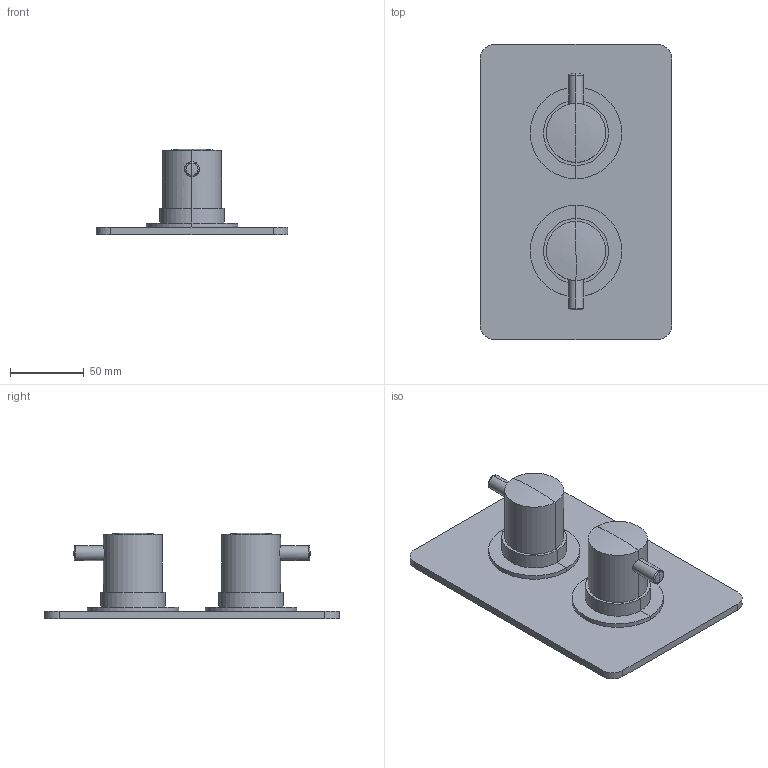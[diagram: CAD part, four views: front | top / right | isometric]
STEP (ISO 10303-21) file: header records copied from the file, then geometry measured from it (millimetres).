
FILE_DESCRIPTION(('FreeCAD Model'),'2;1');
FILE_NAME('Open CASCADE Shape Model','2025-05-30T20:54:53',(''),(''), 'Open CASCADE STEP processor 7.8','FreeCAD','Unknown');
FILE_SCHEMA(('AUTOMOTIVE_DESIGN { 1 0 10303 214 1 1 1 1 }'));
Length unit declared in the file: millimetre
Products named in the file (6): TopLevelAssembly; Po\X2\01420105\X0\czona geometria bry\X2\0142\X0\owa; Obr\X\F3t profilu007; Obr\X\F3t profilu008; Po\X2\01420105\X0\czona geometria bry\X2\0142\X0\owa002; Po\X2\01420105\X0\czona geometria bry\X2\0142\X0\owa003
Assembly tree (5 placements, depth 2):
  TopLevelAssembly
    Po\X2\01420105\X0\czona geometria bry\X2\0142\X0\owa
    Obr\X\F3t profilu007
    Obr\X\F3t profilu008
    Po\X2\01420105\X0\czona geometria bry\X2\0142\X0\owa002
    Po\X2\01420105\X0\czona geometria bry\X2\0142\X0\owa003
Bounding box: 130 x 200 x 58.07 mm (x, y, z)
Volume: 411341.9 mm3; surface area: 100196.1 mm2
Topology: 5 solids, 5 shells, 62 faces, 124 edges, 64 vertices
Faces by surface type: plane 26, cylinder 24, bspline 12
Entity records: 1846 total; most frequent: CARTESIAN_POINT 486, DIRECTION 284, ORIENTED_EDGE 232, AXIS2_PLACEMENT_3D 116, EDGE_CURVE 116, VERTEX_POINT 64, ADVANCED_FACE 62, FACE_BOUND 62
